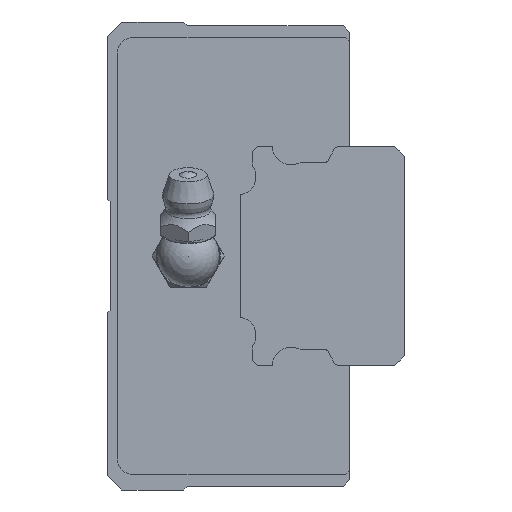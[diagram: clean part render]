
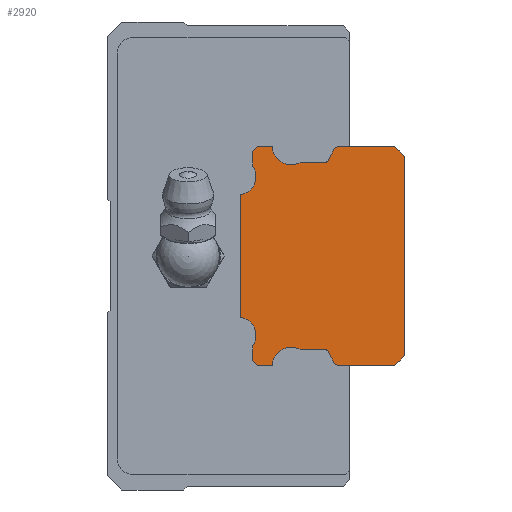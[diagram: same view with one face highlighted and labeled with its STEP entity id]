
A CAD part, left-side view. The second image highlights one B-rep face of the part: STEP entity #2920.
In plain terms, the highlighted planar face has unit normal (-1, 0, 0).
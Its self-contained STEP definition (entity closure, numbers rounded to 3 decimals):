
#99=CIRCLE('',#3106,0.1);
#101=CIRCLE('',#3109,2.4);
#103=CIRCLE('',#3113,0.5);
#105=CIRCLE('',#3117,0.5);
#111=CIRCLE('',#3129,0.5);
#113=CIRCLE('',#3133,0.5);
#115=CIRCLE('',#3137,2.4);
#117=CIRCLE('',#3140,0.1);
#119=CIRCLE('',#3144,0.2);
#121=CIRCLE('',#3148,0.2);
#123=CIRCLE('',#3152,2.4);
#125=CIRCLE('',#3155,0.2);
#131=CIRCLE('',#3163,0.2);
#133=CIRCLE('',#3166,2.4);
#135=CIRCLE('',#3170,0.2);
#137=CIRCLE('',#3174,0.2);
#468=ORIENTED_EDGE('',*,*,#1116,.F.);
#469=ORIENTED_EDGE('',*,*,#1218,.F.);
#470=ORIENTED_EDGE('',*,*,#1215,.F.);
#471=ORIENTED_EDGE('',*,*,#1212,.F.);
#472=ORIENTED_EDGE('',*,*,#1209,.F.);
#473=ORIENTED_EDGE('',*,*,#1206,.T.);
#474=ORIENTED_EDGE('',*,*,#1203,.F.);
#475=ORIENTED_EDGE('',*,*,#1200,.F.);
#476=ORIENTED_EDGE('',*,*,#1193,.F.);
#477=ORIENTED_EDGE('',*,*,#1190,.T.);
#478=ORIENTED_EDGE('',*,*,#1187,.F.);
#479=ORIENTED_EDGE('',*,*,#1184,.F.);
#480=ORIENTED_EDGE('',*,*,#1181,.F.);
#481=ORIENTED_EDGE('',*,*,#1178,.F.);
#482=ORIENTED_EDGE('',*,*,#1175,.F.);
#483=ORIENTED_EDGE('',*,*,#1172,.F.);
#484=ORIENTED_EDGE('',*,*,#1169,.T.);
#485=ORIENTED_EDGE('',*,*,#1166,.F.);
#486=ORIENTED_EDGE('',*,*,#1163,.T.);
#487=ORIENTED_EDGE('',*,*,#1160,.F.);
#488=ORIENTED_EDGE('',*,*,#1157,.F.);
#489=ORIENTED_EDGE('',*,*,#1154,.F.);
#490=ORIENTED_EDGE('',*,*,#1151,.F.);
#491=ORIENTED_EDGE('',*,*,#1148,.F.);
#492=ORIENTED_EDGE('',*,*,#1141,.F.);
#493=ORIENTED_EDGE('',*,*,#1138,.F.);
#494=ORIENTED_EDGE('',*,*,#1135,.F.);
#495=ORIENTED_EDGE('',*,*,#1132,.F.);
#496=ORIENTED_EDGE('',*,*,#1129,.T.);
#497=ORIENTED_EDGE('',*,*,#1126,.F.);
#498=ORIENTED_EDGE('',*,*,#1123,.T.);
#499=ORIENTED_EDGE('',*,*,#1120,.F.);
#1116=EDGE_CURVE('',#1524,#1525,#1821,.T.);
#1120=EDGE_CURVE('',#1525,#1528,#99,.T.);
#1123=EDGE_CURVE('',#1530,#1528,#101,.T.);
#1126=EDGE_CURVE('',#1530,#1532,#1827,.T.);
#1129=EDGE_CURVE('',#1534,#1532,#103,.T.);
#1132=EDGE_CURVE('',#1534,#1536,#1831,.T.);
#1135=EDGE_CURVE('',#1536,#1538,#105,.T.);
#1138=EDGE_CURVE('',#1538,#1540,#1835,.T.);
#1141=EDGE_CURVE('',#1540,#1542,#1838,.T.);
#1148=EDGE_CURVE('',#1542,#1548,#1841,.T.);
#1151=EDGE_CURVE('',#1548,#1550,#1844,.T.);
#1154=EDGE_CURVE('',#1550,#1552,#1847,.T.);
#1157=EDGE_CURVE('',#1552,#1554,#111,.T.);
#1160=EDGE_CURVE('',#1554,#1556,#1851,.T.);
#1163=EDGE_CURVE('',#1558,#1556,#113,.T.);
#1166=EDGE_CURVE('',#1558,#1560,#1855,.T.);
#1169=EDGE_CURVE('',#1562,#1560,#115,.T.);
#1172=EDGE_CURVE('',#1562,#1564,#117,.T.);
#1175=EDGE_CURVE('',#1564,#1566,#1860,.T.);
#1178=EDGE_CURVE('',#1566,#1568,#119,.T.);
#1181=EDGE_CURVE('',#1568,#1570,#1864,.T.);
#1184=EDGE_CURVE('',#1570,#1572,#121,.T.);
#1187=EDGE_CURVE('',#1572,#1574,#1868,.T.);
#1190=EDGE_CURVE('',#1576,#1574,#123,.T.);
#1193=EDGE_CURVE('',#1576,#1578,#125,.T.);
#1200=EDGE_CURVE('',#1578,#1584,#1873,.T.);
#1203=EDGE_CURVE('',#1584,#1586,#131,.T.);
#1206=EDGE_CURVE('',#1588,#1586,#133,.T.);
#1209=EDGE_CURVE('',#1588,#1590,#1878,.T.);
#1212=EDGE_CURVE('',#1590,#1592,#135,.T.);
#1215=EDGE_CURVE('',#1592,#1594,#1882,.T.);
#1218=EDGE_CURVE('',#1594,#1524,#137,.T.);
#1524=VERTEX_POINT('',#4330);
#1525=VERTEX_POINT('',#4331);
#1528=VERTEX_POINT('',#4339);
#1530=VERTEX_POINT('',#4345);
#1532=VERTEX_POINT('',#4351);
#1534=VERTEX_POINT('',#4357);
#1536=VERTEX_POINT('',#4363);
#1538=VERTEX_POINT('',#4369);
#1540=VERTEX_POINT('',#4375);
#1542=VERTEX_POINT('',#4381);
#1548=VERTEX_POINT('',#4395);
#1550=VERTEX_POINT('',#4401);
#1552=VERTEX_POINT('',#4407);
#1554=VERTEX_POINT('',#4413);
#1556=VERTEX_POINT('',#4419);
#1558=VERTEX_POINT('',#4425);
#1560=VERTEX_POINT('',#4431);
#1562=VERTEX_POINT('',#4437);
#1564=VERTEX_POINT('',#4443);
#1566=VERTEX_POINT('',#4449);
#1568=VERTEX_POINT('',#4455);
#1570=VERTEX_POINT('',#4461);
#1572=VERTEX_POINT('',#4467);
#1574=VERTEX_POINT('',#4473);
#1576=VERTEX_POINT('',#4479);
#1578=VERTEX_POINT('',#4485);
#1584=VERTEX_POINT('',#4499);
#1586=VERTEX_POINT('',#4505);
#1588=VERTEX_POINT('',#4511);
#1590=VERTEX_POINT('',#4517);
#1592=VERTEX_POINT('',#4523);
#1594=VERTEX_POINT('',#4529);
#1821=LINE('',#4329,#2061);
#1827=LINE('',#4350,#2067);
#1831=LINE('',#4362,#2071);
#1835=LINE('',#4374,#2075);
#1838=LINE('',#4380,#2078);
#1841=LINE('',#4394,#2081);
#1844=LINE('',#4400,#2084);
#1847=LINE('',#4406,#2087);
#1851=LINE('',#4418,#2091);
#1855=LINE('',#4430,#2095);
#1860=LINE('',#4448,#2100);
#1864=LINE('',#4460,#2104);
#1868=LINE('',#4472,#2108);
#1873=LINE('',#4498,#2113);
#1878=LINE('',#4516,#2118);
#1882=LINE('',#4528,#2122);
#2061=VECTOR('',#3435,1000.);
#2067=VECTOR('',#3455,1000.);
#2071=VECTOR('',#3467,1000.);
#2075=VECTOR('',#3479,1000.);
#2078=VECTOR('',#3484,1000.);
#2081=VECTOR('',#3497,1000.);
#2084=VECTOR('',#3502,1000.);
#2087=VECTOR('',#3507,1000.);
#2091=VECTOR('',#3519,1000.);
#2095=VECTOR('',#3531,1000.);
#2100=VECTOR('',#3550,1000.);
#2104=VECTOR('',#3562,1000.);
#2108=VECTOR('',#3574,1000.);
#2113=VECTOR('',#3601,1000.);
#2118=VECTOR('',#3620,1000.);
#2122=VECTOR('',#3632,1000.);
#2342=EDGE_LOOP('',(#468,#469,#470,#471,#472,#473,#474,#475,#476,#477,#478,
#479,#480,#481,#482,#483,#484,#485,#486,#487,#488,#489,#490,#491,#492,#493,
#494,#495,#496,#497,#498,#499));
#2585=FACE_BOUND('',#2342,.T.);
#2812=PLANE('',#3177);
#2920=ADVANCED_FACE('',(#2585),#2812,.F.);
#3106=AXIS2_PLACEMENT_3D('',#4338,#3441,#3442);
#3109=AXIS2_PLACEMENT_3D('',#4344,#3448,#3449);
#3113=AXIS2_PLACEMENT_3D('',#4356,#3460,#3461);
#3117=AXIS2_PLACEMENT_3D('',#4368,#3472,#3473);
#3129=AXIS2_PLACEMENT_3D('',#4412,#3512,#3513);
#3133=AXIS2_PLACEMENT_3D('',#4424,#3524,#3525);
#3137=AXIS2_PLACEMENT_3D('',#4436,#3536,#3537);
#3140=AXIS2_PLACEMENT_3D('',#4442,#3543,#3544);
#3144=AXIS2_PLACEMENT_3D('',#4454,#3555,#3556);
#3148=AXIS2_PLACEMENT_3D('',#4466,#3567,#3568);
#3152=AXIS2_PLACEMENT_3D('',#4478,#3579,#3580);
#3155=AXIS2_PLACEMENT_3D('',#4484,#3586,#3587);
#3163=AXIS2_PLACEMENT_3D('',#4504,#3606,#3607);
#3166=AXIS2_PLACEMENT_3D('',#4510,#3613,#3614);
#3170=AXIS2_PLACEMENT_3D('',#4522,#3625,#3626);
#3174=AXIS2_PLACEMENT_3D('',#4534,#3637,#3638);
#3177=AXIS2_PLACEMENT_3D('',#4537,#3643,#3644);
#3435=DIRECTION('',(0.,-1.,0.));
#3441=DIRECTION('',(1.,0.,0.));
#3442=DIRECTION('',(0.,0.,-1.));
#3448=DIRECTION('',(1.,0.,0.));
#3449=DIRECTION('',(0.,0.,-1.));
#3455=DIRECTION('',(0.,-1.,0.));
#3460=DIRECTION('',(1.,0.,0.));
#3461=DIRECTION('',(0.,0.,-1.));
#3467=DIRECTION('',(0.,-0.486,0.874));
#3472=DIRECTION('',(1.,0.,0.));
#3473=DIRECTION('',(0.,0.,-1.));
#3479=DIRECTION('',(0.,-1.,0.));
#3484=DIRECTION('',(0.,-0.707,-0.707));
#3497=DIRECTION('',(0.,0.,-1.));
#3502=DIRECTION('',(0.,0.707,-0.707));
#3507=DIRECTION('',(0.,1.,0.));
#3512=DIRECTION('',(1.,0.,0.));
#3513=DIRECTION('',(0.,0.,-1.));
#3519=DIRECTION('',(0.,0.486,0.874));
#3524=DIRECTION('',(1.,0.,0.));
#3525=DIRECTION('',(0.,0.,-1.));
#3531=DIRECTION('',(0.,1.,0.));
#3536=DIRECTION('',(1.,0.,0.));
#3537=DIRECTION('',(0.,0.,-1.));
#3543=DIRECTION('',(1.,0.,0.));
#3544=DIRECTION('',(0.,0.,-1.));
#3550=DIRECTION('',(0.,1.,0.));
#3555=DIRECTION('',(1.,0.,0.));
#3556=DIRECTION('',(0.,0.,-1.));
#3562=DIRECTION('',(0.,0.707,0.707));
#3567=DIRECTION('',(1.,0.,0.));
#3568=DIRECTION('',(0.,0.,-1.));
#3574=DIRECTION('',(0.,0.,1.));
#3579=DIRECTION('',(1.,0.,0.));
#3580=DIRECTION('',(0.,0.,-1.));
#3586=DIRECTION('',(1.,0.,0.));
#3587=DIRECTION('',(0.,0.,-1.));
#3601=DIRECTION('',(0.,0.,1.));
#3606=DIRECTION('',(1.,0.,0.));
#3607=DIRECTION('',(0.,0.,-1.));
#3613=DIRECTION('',(1.,0.,0.));
#3614=DIRECTION('',(0.,0.,-1.));
#3620=DIRECTION('',(0.,0.,1.));
#3625=DIRECTION('',(1.,0.,0.));
#3626=DIRECTION('',(0.,0.,-1.));
#3632=DIRECTION('',(0.,-0.707,0.707));
#3637=DIRECTION('',(1.,0.,0.));
#3638=DIRECTION('',(0.,0.,-1.));
#3643=DIRECTION('',(1.,0.,0.));
#3644=DIRECTION('',(0.,0.,-1.));
#4329=CARTESIAN_POINT('',(-20.,18.8,14.));
#4330=CARTESIAN_POINT('',(-20.,18.8,14.));
#4331=CARTESIAN_POINT('',(-20.,16.992,14.));
#4338=CARTESIAN_POINT('',(-20.,16.992,13.9));
#4339=CARTESIAN_POINT('',(-20.,16.892,13.908));
#4344=CARTESIAN_POINT('',(-20.,14.5,14.1));
#4345=CARTESIAN_POINT('',(-20.,13.338,12.));
#4350=CARTESIAN_POINT('',(-20.,13.338,12.));
#4351=CARTESIAN_POINT('',(-20.,10.2,12.));
#4356=CARTESIAN_POINT('',(-20.,10.2,12.5));
#4357=CARTESIAN_POINT('',(-20.,9.763,12.257));
#4362=CARTESIAN_POINT('',(-20.,9.763,12.257));
#4363=CARTESIAN_POINT('',(-20.,8.937,13.743));
#4368=CARTESIAN_POINT('',(-20.,8.5,13.5));
#4369=CARTESIAN_POINT('',(-20.,8.5,14.));
#4374=CARTESIAN_POINT('',(-20.,8.5,14.));
#4375=CARTESIAN_POINT('',(-20.,1.2,14.));
#4380=CARTESIAN_POINT('',(-20.,1.2,14.));
#4381=CARTESIAN_POINT('',(-20.,0.,12.8));
#4394=CARTESIAN_POINT('',(-20.,0.,12.8));
#4395=CARTESIAN_POINT('',(-20.,0.,-12.8));
#4400=CARTESIAN_POINT('',(-20.,0.,-12.8));
#4401=CARTESIAN_POINT('',(-20.,1.2,-14.));
#4406=CARTESIAN_POINT('',(-20.,1.2,-14.));
#4407=CARTESIAN_POINT('',(-20.,8.5,-14.));
#4412=CARTESIAN_POINT('',(-20.,8.5,-13.5));
#4413=CARTESIAN_POINT('',(-20.,8.937,-13.743));
#4418=CARTESIAN_POINT('',(-20.,8.937,-13.743));
#4419=CARTESIAN_POINT('',(-20.,9.763,-12.257));
#4424=CARTESIAN_POINT('',(-20.,10.2,-12.5));
#4425=CARTESIAN_POINT('',(-20.,10.2,-12.));
#4430=CARTESIAN_POINT('',(-20.,10.2,-12.));
#4431=CARTESIAN_POINT('',(-20.,13.338,-12.));
#4436=CARTESIAN_POINT('',(-20.,14.5,-14.1));
#4437=CARTESIAN_POINT('',(-20.,16.892,-13.908));
#4442=CARTESIAN_POINT('',(-20.,16.992,-13.9));
#4443=CARTESIAN_POINT('',(-20.,16.992,-14.));
#4448=CARTESIAN_POINT('',(-20.,16.992,-14.));
#4449=CARTESIAN_POINT('',(-20.,18.8,-14.));
#4454=CARTESIAN_POINT('',(-20.,18.8,-13.8));
#4455=CARTESIAN_POINT('',(-20.,18.941,-13.941));
#4460=CARTESIAN_POINT('',(-20.,18.941,-13.941));
#4461=CARTESIAN_POINT('',(-20.,19.341,-13.541));
#4466=CARTESIAN_POINT('',(-20.,19.2,-13.4));
#4467=CARTESIAN_POINT('',(-20.,19.4,-13.4));
#4472=CARTESIAN_POINT('',(-20.,19.4,-13.4));
#4473=CARTESIAN_POINT('',(-20.,19.4,-11.527));
#4478=CARTESIAN_POINT('',(-20.,21.4,-10.2));
#4479=CARTESIAN_POINT('',(-20.,20.846,-7.865));
#4484=CARTESIAN_POINT('',(-20.,20.8,-7.67));
#4485=CARTESIAN_POINT('',(-20.,21.,-7.67));
#4498=CARTESIAN_POINT('',(-20.,21.,-7.67));
#4499=CARTESIAN_POINT('',(-20.,21.,7.67));
#4504=CARTESIAN_POINT('',(-20.,20.8,7.67));
#4505=CARTESIAN_POINT('',(-20.,20.846,7.865));
#4510=CARTESIAN_POINT('',(-20.,21.4,10.2));
#4511=CARTESIAN_POINT('',(-20.,19.4,11.527));
#4516=CARTESIAN_POINT('',(-20.,19.4,11.527));
#4517=CARTESIAN_POINT('',(-20.,19.4,13.4));
#4522=CARTESIAN_POINT('',(-20.,19.2,13.4));
#4523=CARTESIAN_POINT('',(-20.,19.341,13.541));
#4528=CARTESIAN_POINT('',(-20.,19.341,13.541));
#4529=CARTESIAN_POINT('',(-20.,18.941,13.941));
#4534=CARTESIAN_POINT('',(-20.,18.8,13.8));
#4537=CARTESIAN_POINT('',(-20.,16.992,13.9));
